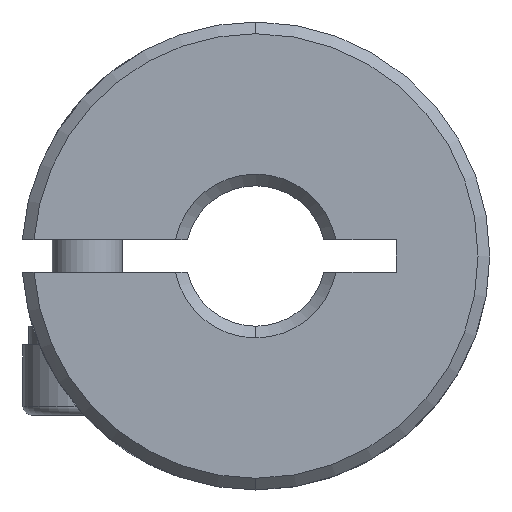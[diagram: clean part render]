
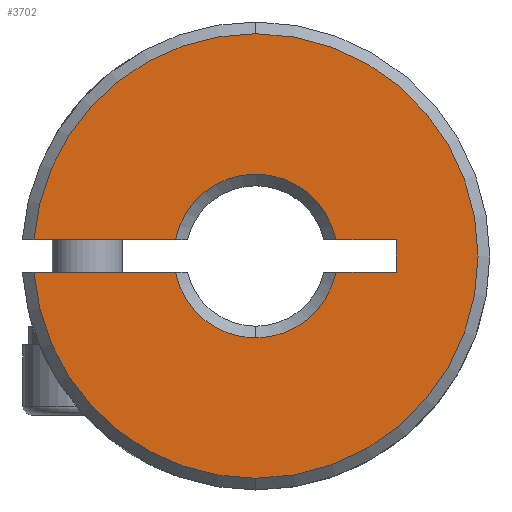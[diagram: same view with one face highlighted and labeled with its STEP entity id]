
A CAD part, front view. The second image highlights one B-rep face of the part: STEP entity #3702.
In plain terms, the highlighted planar face has unit normal (0, -1, 0).
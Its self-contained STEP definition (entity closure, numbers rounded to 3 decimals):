
#46 = DIRECTION ( 'NONE',  ( -1., 0., 0. ) ) ;
#85 = PLANE ( 'NONE',  #3042 ) ;
#89 = VERTEX_POINT ( 'NONE', #485 ) ;
#95 = DIRECTION ( 'NONE',  ( 0., 0., 1. ) ) ;
#96 = CARTESIAN_POINT ( 'NONE',  ( -50., 0.25, 12. ) ) ;
#185 = CARTESIAN_POINT ( 'NONE',  ( 6., 0.25, -0.7 ) ) ;
#196 = ORIENTED_EDGE ( 'NONE', *, *, #1696, .F. ) ;
#199 = VERTEX_POINT ( 'NONE', #1116 ) ;
#202 = AXIS2_PLACEMENT_3D ( 'NONE', #1950, #212, #500 ) ;
#212 = DIRECTION ( 'NONE',  ( 0., 1., 0. ) ) ;
#240 = ORIENTED_EDGE ( 'NONE', *, *, #1208, .T. ) ;
#252 = DIRECTION ( 'NONE',  ( 0., 0., 1. ) ) ;
#302 = CARTESIAN_POINT ( 'NONE',  ( 0., 0.25, 0. ) ) ;
#483 = DIRECTION ( 'NONE',  ( -1., 0., 0. ) ) ;
#485 = CARTESIAN_POINT ( 'NONE',  ( 3.429, 0.25, 0.7 ) ) ;
#486 = CARTESIAN_POINT ( 'NONE',  ( 0., 0.25, 0. ) ) ;
#500 = DIRECTION ( 'NONE',  ( 0., 0., 1. ) ) ;
#558 = VERTEX_POINT ( 'NONE', #1783 ) ;
#583 = VECTOR ( 'NONE', #1107, 1000. ) ;
#643 = CARTESIAN_POINT ( 'NONE',  ( 0., 0.25, -3.5 ) ) ;
#677 = CIRCLE ( 'NONE', #1635, 9.5 ) ;
#705 = ORIENTED_EDGE ( 'NONE', *, *, #3380, .T. ) ;
#745 = DIRECTION ( 'NONE',  ( 0., -1., 0. ) ) ;
#753 = DIRECTION ( 'NONE',  ( 0., 0., 1. ) ) ;
#771 = AXIS2_PLACEMENT_3D ( 'NONE', #2585, #866, #252 ) ;
#827 = ORIENTED_EDGE ( 'NONE', *, *, #3582, .F. ) ;
#866 = DIRECTION ( 'NONE',  ( 0., 1., 0. ) ) ;
#889 = CARTESIAN_POINT ( 'NONE',  ( 3.429, 0.25, -0.7 ) ) ;
#927 = VERTEX_POINT ( 'NONE', #1779 ) ;
#966 = EDGE_CURVE ( 'NONE', #2857, #89, #2446, .T. ) ;
#978 = ORIENTED_EDGE ( 'NONE', *, *, #3029, .T. ) ;
#1035 = LINE ( 'NONE', #3172, #1172 ) ;
#1092 = VERTEX_POINT ( 'NONE', #1495 ) ;
#1107 = DIRECTION ( 'NONE',  ( 0., 0., 1. ) ) ;
#1113 = VERTEX_POINT ( 'NONE', #643 ) ;
#1116 = CARTESIAN_POINT ( 'NONE',  ( 0., 0.25, 9.5 ) ) ;
#1170 = AXIS2_PLACEMENT_3D ( 'NONE', #302, #2614, #2016 ) ;
#1172 = VECTOR ( 'NONE', #3476, 1000. ) ;
#1208 = EDGE_CURVE ( 'NONE', #2741, #558, #1224, .T. ) ;
#1224 = CIRCLE ( 'NONE', #3484, 9.5 ) ;
#1239 = ORIENTED_EDGE ( 'NONE', *, *, #1813, .F. ) ;
#1303 = VERTEX_POINT ( 'NONE', #1412 ) ;
#1341 = VECTOR ( 'NONE', #2825, 1000. ) ;
#1349 = CARTESIAN_POINT ( 'NONE',  ( 6., 0.25, 0.7 ) ) ;
#1412 = CARTESIAN_POINT ( 'NONE',  ( -9.474, 0.25, 0.7 ) ) ;
#1447 = FACE_OUTER_BOUND ( 'NONE', #2559, .T. ) ;
#1495 = CARTESIAN_POINT ( 'NONE',  ( -3.429, 0.25, 0.7 ) ) ;
#1536 = CARTESIAN_POINT ( 'NONE',  ( 0., 0.25, 0. ) ) ;
#1635 = AXIS2_PLACEMENT_3D ( 'NONE', #1536, #1829, #95 ) ;
#1696 = EDGE_CURVE ( 'NONE', #2608, #927, #1035, .T. ) ;
#1723 = ORIENTED_EDGE ( 'NONE', *, *, #966, .F. ) ;
#1745 = EDGE_CURVE ( 'NONE', #1113, #1836, #1998, .T. ) ;
#1779 = CARTESIAN_POINT ( 'NONE',  ( 6., 0.25, -0.7 ) ) ;
#1783 = CARTESIAN_POINT ( 'NONE',  ( 0., 0.25, -9.5 ) ) ;
#1800 = LINE ( 'NONE', #185, #1341 ) ;
#1813 = EDGE_CURVE ( 'NONE', #1092, #1303, #2904, .T. ) ;
#1829 = DIRECTION ( 'NONE',  ( 0., -1., 0. ) ) ;
#1836 = VERTEX_POINT ( 'NONE', #3118 ) ;
#1950 = CARTESIAN_POINT ( 'NONE',  ( 0., 0.25, 0. ) ) ;
#1977 = ORIENTED_EDGE ( 'NONE', *, *, #3337, .T. ) ;
#1998 = CIRCLE ( 'NONE', #771, 3.5 ) ;
#2016 = DIRECTION ( 'NONE',  ( 0., 0., 1. ) ) ;
#2022 = ORIENTED_EDGE ( 'NONE', *, *, #1745, .T. ) ;
#2043 = VECTOR ( 'NONE', #483, 1000. ) ;
#2154 = DIRECTION ( 'NONE',  ( 0., 1., 0. ) ) ;
#2156 = CARTESIAN_POINT ( 'NONE',  ( 0., 0.25, 0. ) ) ;
#2208 = AXIS2_PLACEMENT_3D ( 'NONE', #486, #745, #3063 ) ;
#2446 = LINE ( 'NONE', #3240, #3427 ) ;
#2463 = ORIENTED_EDGE ( 'NONE', *, *, #3165, .F. ) ;
#2523 = LINE ( 'NONE', #1349, #583 ) ;
#2559 = EDGE_LOOP ( 'NONE', ( #827, #240, #1977, #978, #1239, #705, #1723, #2463, #196, #3708, #2022 ) ) ;
#2585 = CARTESIAN_POINT ( 'NONE',  ( 0., 0.25, 0. ) ) ;
#2608 = VERTEX_POINT ( 'NONE', #889 ) ;
#2614 = DIRECTION ( 'NONE',  ( 0., 1., 0. ) ) ;
#2717 = CARTESIAN_POINT ( 'NONE',  ( -9.474, 0.25, -0.7 ) ) ;
#2732 = DIRECTION ( 'NONE',  ( 0., 0., 1. ) ) ;
#2738 = CARTESIAN_POINT ( 'NONE',  ( 6., 0.25, 0.7 ) ) ;
#2741 = VERTEX_POINT ( 'NONE', #2717 ) ;
#2751 = CARTESIAN_POINT ( 'NONE',  ( 6., 0.25, 0.7 ) ) ;
#2825 = DIRECTION ( 'NONE',  ( 1., 0., 0. ) ) ;
#2857 = VERTEX_POINT ( 'NONE', #2738 ) ;
#2898 = CIRCLE ( 'NONE', #2208, 9.5 ) ;
#2904 = LINE ( 'NONE', #2751, #2043 ) ;
#3029 = EDGE_CURVE ( 'NONE', #199, #1303, #2898, .T. ) ;
#3042 = AXIS2_PLACEMENT_3D ( 'NONE', #96, #2154, #2732 ) ;
#3063 = DIRECTION ( 'NONE',  ( 0., 0., 1. ) ) ;
#3118 = CARTESIAN_POINT ( 'NONE',  ( -3.429, 0.25, -0.7 ) ) ;
#3165 = EDGE_CURVE ( 'NONE', #927, #2857, #2523, .T. ) ;
#3172 = CARTESIAN_POINT ( 'NONE',  ( 6., 0.25, -0.7 ) ) ;
#3240 = CARTESIAN_POINT ( 'NONE',  ( 6., 0.25, 0.7 ) ) ;
#3337 = EDGE_CURVE ( 'NONE', #558, #199, #677, .T. ) ;
#3380 = EDGE_CURVE ( 'NONE', #1092, #89, #3592, .T. ) ;
#3388 = EDGE_CURVE ( 'NONE', #2608, #1113, #3671, .T. ) ;
#3427 = VECTOR ( 'NONE', #46, 1000. ) ;
#3476 = DIRECTION ( 'NONE',  ( 1., 0., 0. ) ) ;
#3484 = AXIS2_PLACEMENT_3D ( 'NONE', #2156, #3652, #753 ) ;
#3582 = EDGE_CURVE ( 'NONE', #2741, #1836, #1800, .T. ) ;
#3592 = CIRCLE ( 'NONE', #202, 3.5 ) ;
#3652 = DIRECTION ( 'NONE',  ( 0., -1., 0. ) ) ;
#3671 = CIRCLE ( 'NONE', #1170, 3.5 ) ;
#3702 = ADVANCED_FACE ( 'NONE', ( #1447 ), #85, .F. ) ;
#3708 = ORIENTED_EDGE ( 'NONE', *, *, #3388, .T. ) ;
